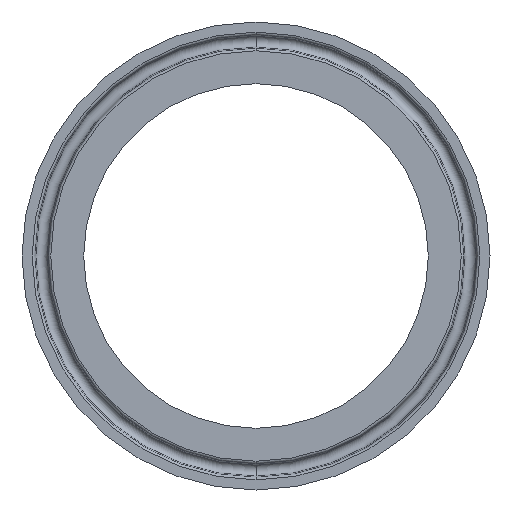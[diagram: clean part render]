
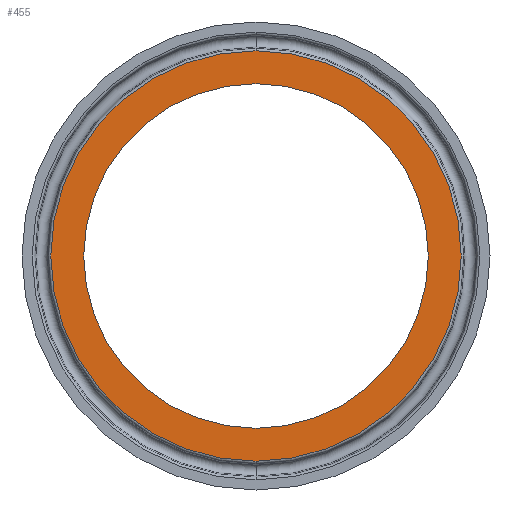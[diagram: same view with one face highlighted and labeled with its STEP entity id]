
A CAD part, front view. The second image highlights one B-rep face of the part: STEP entity #455.
In plain terms, the highlighted planar face has unit normal (0, -1, 0).
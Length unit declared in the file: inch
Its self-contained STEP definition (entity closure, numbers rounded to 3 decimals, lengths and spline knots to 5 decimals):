
#5 = VERTEX_POINT ( 'NONE', #499 ) ;
#6 = CARTESIAN_POINT ( 'NONE',  ( 0., 0., 0. ) ) ;
#19 = VERTEX_POINT ( 'NONE', #445 ) ;
#22 = EDGE_CURVE ( 'NONE', #19, #85, #179, .T. ) ;
#69 = FACE_OUTER_BOUND ( 'NONE', #575, .T. ) ;
#85 = VERTEX_POINT ( 'NONE', #538 ) ;
#89 = CARTESIAN_POINT ( 'NONE',  ( 0., 0., 0. ) ) ;
#108 = ORIENTED_EDGE ( 'NONE', *, *, #22, .T. ) ;
#117 = EDGE_CURVE ( 'NONE', #85, #19, #577, .T. ) ;
#179 = CIRCLE ( 'NONE', #528, 1.3175 ) ;
#192 = DIRECTION ( 'NONE',  ( 0., 1., 0. ) ) ;
#210 = DIRECTION ( 'NONE',  ( 0., 0., 1. ) ) ;
#271 = PLANE ( 'NONE',  #466 ) ;
#279 = CARTESIAN_POINT ( 'NONE',  ( 0., 0., 0. ) ) ;
#283 = AXIS2_PLACEMENT_3D ( 'NONE', #6, #563, #454 ) ;
#286 = DIRECTION ( 'NONE',  ( 0., 0., 1. ) ) ;
#294 = CIRCLE ( 'NONE', #478, 1.56941 ) ;
#296 = DIRECTION ( 'NONE',  ( 0., 1., 0. ) ) ;
#308 = EDGE_CURVE ( 'NONE', #5, #486, #294, .T. ) ;
#321 = ORIENTED_EDGE ( 'NONE', *, *, #308, .F. ) ;
#339 = CARTESIAN_POINT ( 'NONE',  ( 0., 0., 0. ) ) ;
#353 = CARTESIAN_POINT ( 'NONE',  ( 0., 0., 0. ) ) ;
#358 = AXIS2_PLACEMENT_3D ( 'NONE', #89, #192, #286 ) ;
#396 = DIRECTION ( 'NONE',  ( 0., 1., 0. ) ) ;
#419 = CIRCLE ( 'NONE', #283, 1.56941 ) ;
#421 = DIRECTION ( 'NONE',  ( 0., 1., 0. ) ) ;
#426 = ORIENTED_EDGE ( 'NONE', *, *, #634, .F. ) ;
#445 = CARTESIAN_POINT ( 'NONE',  ( 0., 0., 1.3175 ) ) ;
#454 = DIRECTION ( 'NONE',  ( 0., 0., 1. ) ) ;
#455 = ADVANCED_FACE ( 'NONE', ( #69, #524 ), #271, .F. ) ;
#466 = AXIS2_PLACEMENT_3D ( 'NONE', #279, #421, #485 ) ;
#478 = AXIS2_PLACEMENT_3D ( 'NONE', #353, #296, #210 ) ;
#485 = DIRECTION ( 'NONE',  ( 0., 0., 1. ) ) ;
#486 = VERTEX_POINT ( 'NONE', #593 ) ;
#499 = CARTESIAN_POINT ( 'NONE',  ( 0., 0., -1.56941 ) ) ;
#524 = FACE_BOUND ( 'NONE', #616, .T. ) ;
#525 = ORIENTED_EDGE ( 'NONE', *, *, #117, .T. ) ;
#528 = AXIS2_PLACEMENT_3D ( 'NONE', #339, #396, #605 ) ;
#538 = CARTESIAN_POINT ( 'NONE',  ( 0., 0., -1.3175 ) ) ;
#563 = DIRECTION ( 'NONE',  ( 0., 1., 0. ) ) ;
#575 = EDGE_LOOP ( 'NONE', ( #426, #321 ) ) ;
#577 = CIRCLE ( 'NONE', #358, 1.3175 ) ;
#593 = CARTESIAN_POINT ( 'NONE',  ( 0., 0., 1.56941 ) ) ;
#605 = DIRECTION ( 'NONE',  ( 0., 0., 1. ) ) ;
#616 = EDGE_LOOP ( 'NONE', ( #108, #525 ) ) ;
#634 = EDGE_CURVE ( 'NONE', #486, #5, #419, .T. ) ;
